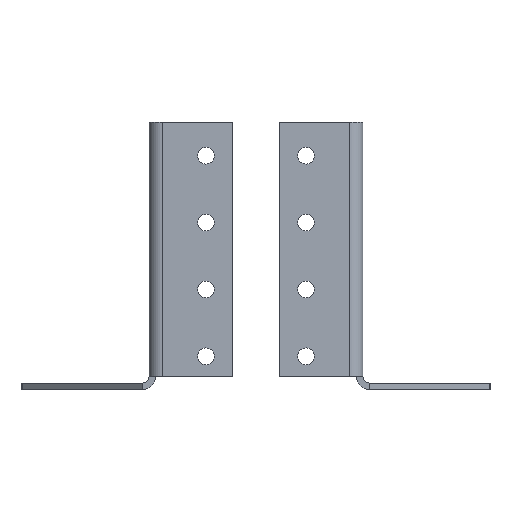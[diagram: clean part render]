
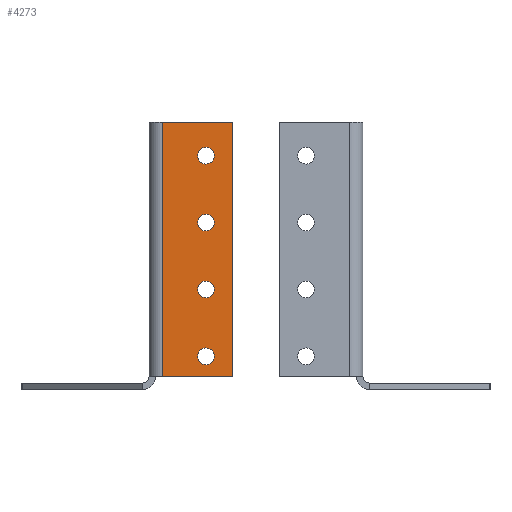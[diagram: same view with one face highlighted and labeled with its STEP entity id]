
A CAD part, front view. The second image highlights one B-rep face of the part: STEP entity #4273.
In plain terms, the highlighted planar face has unit normal (0, -1, 0).
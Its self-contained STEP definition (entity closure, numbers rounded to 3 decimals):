
#29 = CARTESIAN_POINT ( 'NONE',  ( 23., -2., -76. ) ) ;
#91 = CARTESIAN_POINT ( 'NONE',  ( 2., -2., 0. ) ) ;
#124 = DIRECTION ( 'NONE',  ( 0., 0., -1. ) ) ;
#241 = EDGE_CURVE ( 'NONE', #2190, #4309, #2244, .T. ) ;
#322 = AXIS2_PLACEMENT_3D ( 'NONE', #4603, #3345, #1774 ) ;
#334 = CARTESIAN_POINT ( 'NONE',  ( 15., -2., -47.5 ) ) ;
#343 = VERTEX_POINT ( 'NONE', #334 ) ;
#355 = CARTESIAN_POINT ( 'NONE',  ( 15., -2., -70. ) ) ;
#358 = VERTEX_POINT ( 'NONE', #4036 ) ;
#384 = PLANE ( 'NONE',  #5157 ) ;
#444 = CIRCLE ( 'NONE', #5029, 2.5 ) ;
#451 = DIRECTION ( 'NONE',  ( 0., 1., 0. ) ) ;
#545 = EDGE_CURVE ( 'NONE', #5162, #1915, #1757, .T. ) ;
#553 = EDGE_CURVE ( 'NONE', #5219, #5286, #4753, .T. ) ;
#574 = EDGE_LOOP ( 'NONE', ( #608, #3861 ) ) ;
#581 = EDGE_CURVE ( 'NONE', #343, #2464, #1990, .T. ) ;
#597 = VERTEX_POINT ( 'NONE', #2965 ) ;
#608 = ORIENTED_EDGE ( 'NONE', *, *, #720, .T. ) ;
#653 = ORIENTED_EDGE ( 'NONE', *, *, #1339, .T. ) ;
#720 = EDGE_CURVE ( 'NONE', #4550, #597, #4621, .T. ) ;
#813 = ORIENTED_EDGE ( 'NONE', *, *, #545, .T. ) ;
#827 = CARTESIAN_POINT ( 'NONE',  ( 15., -2., -7.5 ) ) ;
#974 = DIRECTION ( 'NONE',  ( 0., 1., 0. ) ) ;
#1015 = ORIENTED_EDGE ( 'NONE', *, *, #1144, .T. ) ;
#1051 = EDGE_LOOP ( 'NONE', ( #1015, #2409 ) ) ;
#1102 = VERTEX_POINT ( 'NONE', #4294 ) ;
#1105 = EDGE_CURVE ( 'NONE', #597, #4550, #444, .T. ) ;
#1144 = EDGE_CURVE ( 'NONE', #358, #1102, #1231, .T. ) ;
#1152 = DIRECTION ( 'NONE',  ( 0., 0., -1. ) ) ;
#1178 = DIRECTION ( 'NONE',  ( -1., 0., 0. ) ) ;
#1231 = CIRCLE ( 'NONE', #1672, 2.5 ) ;
#1253 = DIRECTION ( 'NONE',  ( 0., 1., 0. ) ) ;
#1311 = DIRECTION ( 'NONE',  ( 0., 0., -1. ) ) ;
#1339 = EDGE_CURVE ( 'NONE', #1915, #5162, #3498, .T. ) ;
#1398 = DIRECTION ( 'NONE',  ( 0., 1., 0. ) ) ;
#1410 = EDGE_CURVE ( 'NONE', #5219, #4309, #4899, .T. ) ;
#1414 = ORIENTED_EDGE ( 'NONE', *, *, #1410, .T. ) ;
#1448 = DIRECTION ( 'NONE',  ( 0., 0., -1. ) ) ;
#1585 = CARTESIAN_POINT ( 'NONE',  ( 15., -2., -52.5 ) ) ;
#1672 = AXIS2_PLACEMENT_3D ( 'NONE', #2263, #1398, #124 ) ;
#1694 = DIRECTION ( 'NONE',  ( 0., 0., -1. ) ) ;
#1757 = CIRCLE ( 'NONE', #322, 2.5 ) ;
#1761 = CARTESIAN_POINT ( 'NONE',  ( 15., -2., -12.5 ) ) ;
#1766 = DIRECTION ( 'NONE',  ( 0., 0., -1. ) ) ;
#1774 = DIRECTION ( 'NONE',  ( 0., 0., -1. ) ) ;
#1822 = CARTESIAN_POINT ( 'NONE',  ( 15., -2., -30. ) ) ;
#1826 = DIRECTION ( 'NONE',  ( 0., 1., 0. ) ) ;
#1842 = DIRECTION ( 'NONE',  ( 0., 0., -1. ) ) ;
#1853 = ORIENTED_EDGE ( 'NONE', *, *, #3399, .F. ) ;
#1915 = VERTEX_POINT ( 'NONE', #827 ) ;
#1963 = AXIS2_PLACEMENT_3D ( 'NONE', #3215, #2436, #1152 ) ;
#1979 = FACE_BOUND ( 'NONE', #1051, .T. ) ;
#1990 = CIRCLE ( 'NONE', #3541, 2.5 ) ;
#2190 = VERTEX_POINT ( 'NONE', #29 ) ;
#2230 = CARTESIAN_POINT ( 'NONE',  ( 23., -2., 0. ) ) ;
#2244 = LINE ( 'NONE', #2755, #2428 ) ;
#2263 = CARTESIAN_POINT ( 'NONE',  ( 15., -2., -70. ) ) ;
#2275 = ORIENTED_EDGE ( 'NONE', *, *, #241, .F. ) ;
#2409 = ORIENTED_EDGE ( 'NONE', *, *, #2634, .T. ) ;
#2428 = VECTOR ( 'NONE', #1178, 1000. ) ;
#2436 = DIRECTION ( 'NONE',  ( 0., 1., 0. ) ) ;
#2464 = VERTEX_POINT ( 'NONE', #1585 ) ;
#2518 = CARTESIAN_POINT ( 'NONE',  ( 15., -2., -50. ) ) ;
#2634 = EDGE_CURVE ( 'NONE', #1102, #358, #3908, .T. ) ;
#2647 = CARTESIAN_POINT ( 'NONE',  ( 15., -2., -30. ) ) ;
#2711 = VECTOR ( 'NONE', #1311, 1000. ) ;
#2755 = CARTESIAN_POINT ( 'NONE',  ( 0., -2., -76. ) ) ;
#2845 = CARTESIAN_POINT ( 'NONE',  ( 2., -2., -76. ) ) ;
#2859 = CARTESIAN_POINT ( 'NONE',  ( 15., -2., -50. ) ) ;
#2876 = VECTOR ( 'NONE', #3822, 1000. ) ;
#2965 = CARTESIAN_POINT ( 'NONE',  ( 15., -2., -32.5 ) ) ;
#2995 = FACE_BOUND ( 'NONE', #4585, .T. ) ;
#3006 = DIRECTION ( 'NONE',  ( 0., 0., -1. ) ) ;
#3022 = DIRECTION ( 'NONE',  ( 0., 1., 0. ) ) ;
#3044 = AXIS2_PLACEMENT_3D ( 'NONE', #2859, #451, #3006 ) ;
#3215 = CARTESIAN_POINT ( 'NONE',  ( 15., -2., -10. ) ) ;
#3228 = DIRECTION ( 'NONE',  ( 0., 0., -1. ) ) ;
#3264 = CARTESIAN_POINT ( 'NONE',  ( 0., -2., 0. ) ) ;
#3275 = CARTESIAN_POINT ( 'NONE',  ( 23., -2., 0. ) ) ;
#3293 = ORIENTED_EDGE ( 'NONE', *, *, #4952, .T. ) ;
#3345 = DIRECTION ( 'NONE',  ( 0., 1., 0. ) ) ;
#3399 = EDGE_CURVE ( 'NONE', #5286, #2190, #4303, .T. ) ;
#3498 = CIRCLE ( 'NONE', #1963, 2.5 ) ;
#3505 = ORIENTED_EDGE ( 'NONE', *, *, #553, .F. ) ;
#3541 = AXIS2_PLACEMENT_3D ( 'NONE', #2518, #974, #4583 ) ;
#3822 = DIRECTION ( 'NONE',  ( 1., 0., 0. ) ) ;
#3861 = ORIENTED_EDGE ( 'NONE', *, *, #1105, .T. ) ;
#3908 = CIRCLE ( 'NONE', #3986, 2.5 ) ;
#3986 = AXIS2_PLACEMENT_3D ( 'NONE', #355, #1253, #1694 ) ;
#4036 = CARTESIAN_POINT ( 'NONE',  ( 15., -2., -67.5 ) ) ;
#4097 = VECTOR ( 'NONE', #1766, 1000. ) ;
#4201 = EDGE_LOOP ( 'NONE', ( #4473, #3293 ) ) ;
#4273 = ADVANCED_FACE ( 'NONE', ( #1979, #5190, #4411, #2995, #5261 ), #384, .T. ) ;
#4282 = AXIS2_PLACEMENT_3D ( 'NONE', #1822, #3022, #1448 ) ;
#4294 = CARTESIAN_POINT ( 'NONE',  ( 15., -2., -72.5 ) ) ;
#4303 = LINE ( 'NONE', #3275, #4097 ) ;
#4309 = VERTEX_POINT ( 'NONE', #2845 ) ;
#4411 = FACE_BOUND ( 'NONE', #574, .T. ) ;
#4473 = ORIENTED_EDGE ( 'NONE', *, *, #581, .T. ) ;
#4550 = VERTEX_POINT ( 'NONE', #5035 ) ;
#4583 = DIRECTION ( 'NONE',  ( 0., 0., -1. ) ) ;
#4585 = EDGE_LOOP ( 'NONE', ( #653, #813 ) ) ;
#4603 = CARTESIAN_POINT ( 'NONE',  ( 15., -2., -10. ) ) ;
#4621 = CIRCLE ( 'NONE', #4282, 2.5 ) ;
#4753 = LINE ( 'NONE', #5061, #2876 ) ;
#4899 = LINE ( 'NONE', #5366, #2711 ) ;
#4926 = DIRECTION ( 'NONE',  ( 0., -1., 0. ) ) ;
#4952 = EDGE_CURVE ( 'NONE', #2464, #343, #4988, .T. ) ;
#4965 = EDGE_LOOP ( 'NONE', ( #3505, #1414, #2275, #1853 ) ) ;
#4988 = CIRCLE ( 'NONE', #3044, 2.5 ) ;
#5029 = AXIS2_PLACEMENT_3D ( 'NONE', #2647, #1826, #1842 ) ;
#5035 = CARTESIAN_POINT ( 'NONE',  ( 15., -2., -27.5 ) ) ;
#5061 = CARTESIAN_POINT ( 'NONE',  ( 0., -2., 0. ) ) ;
#5157 = AXIS2_PLACEMENT_3D ( 'NONE', #3264, #4926, #3228 ) ;
#5162 = VERTEX_POINT ( 'NONE', #1761 ) ;
#5190 = FACE_BOUND ( 'NONE', #4201, .T. ) ;
#5219 = VERTEX_POINT ( 'NONE', #91 ) ;
#5261 = FACE_OUTER_BOUND ( 'NONE', #4965, .T. ) ;
#5286 = VERTEX_POINT ( 'NONE', #2230 ) ;
#5366 = CARTESIAN_POINT ( 'NONE',  ( 2., -2., 0. ) ) ;
